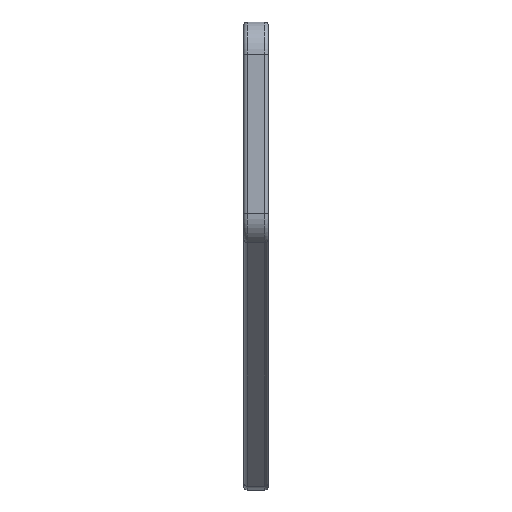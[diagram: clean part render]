
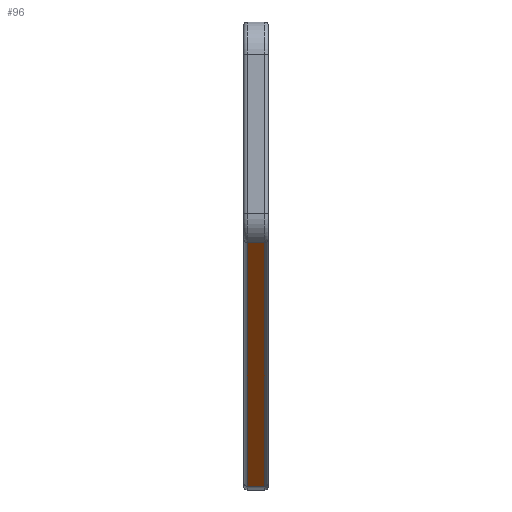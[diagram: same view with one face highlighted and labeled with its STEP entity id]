
A CAD part, left-side view. The second image highlights one B-rep face of the part: STEP entity #96.
In plain terms, the highlighted planar face has unit normal (-0.458, 0, -0.889).
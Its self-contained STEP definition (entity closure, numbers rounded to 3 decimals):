
#15 = VECTOR ( 'NONE', #2104, 1000. ) ;
#19 = CARTESIAN_POINT ( 'NONE',  ( -59.93, 2., 52.206 ) ) ;
#55 = VECTOR ( 'NONE', #1133, 1000. ) ;
#57 = FACE_OUTER_BOUND ( 'NONE', #1971, .T. ) ;
#95 = ORIENTED_EDGE ( 'NONE', *, *, #372, .T. ) ;
#96 = ADVANCED_FACE ( 'NONE', ( #57 ), #398, .F. ) ;
#100 = VECTOR ( 'NONE', #702, 1000. ) ;
#372 = EDGE_CURVE ( 'NONE', #1773, #1639, #381, .T. ) ;
#381 = LINE ( 'NONE', #860, #595 ) ;
#398 = PLANE ( 'NONE',  #964 ) ;
#402 = LINE ( 'NONE', #1125, #55 ) ;
#417 = CARTESIAN_POINT ( 'NONE',  ( -21.899, 2., 32.601 ) ) ;
#420 = CARTESIAN_POINT ( 'NONE',  ( -59.93, 0.3, 52.206 ) ) ;
#511 = CARTESIAN_POINT ( 'NONE',  ( -21.899, 0.3, 32.601 ) ) ;
#534 = ORIENTED_EDGE ( 'NONE', *, *, #1750, .F. ) ;
#595 = VECTOR ( 'NONE', #864, 1000. ) ;
#702 = DIRECTION ( 'NONE',  ( 0., -1., 0. ) ) ;
#740 = DIRECTION ( 'NONE',  ( 0.889, 0., -0.458 ) ) ;
#820 = CARTESIAN_POINT ( 'NONE',  ( -21.899, 1.7, 32.601 ) ) ;
#860 = CARTESIAN_POINT ( 'NONE',  ( -21.899, 1.7, 32.601 ) ) ;
#864 = DIRECTION ( 'NONE',  ( 0.889, 0., -0.458 ) ) ;
#875 = CARTESIAN_POINT ( 'NONE',  ( -59.93, 1.7, 52.206 ) ) ;
#888 = ORIENTED_EDGE ( 'NONE', *, *, #1976, .T. ) ;
#919 = EDGE_CURVE ( 'NONE', #995, #2024, #402, .T. ) ;
#964 = AXIS2_PLACEMENT_3D ( 'NONE', #417, #1766, #740 ) ;
#995 = VERTEX_POINT ( 'NONE', #511 ) ;
#1000 = LINE ( 'NONE', #19, #100 ) ;
#1125 = CARTESIAN_POINT ( 'NONE',  ( -59.93, 0.3, 52.206 ) ) ;
#1133 = DIRECTION ( 'NONE',  ( -0.889, 0., 0.458 ) ) ;
#1442 = LINE ( 'NONE', #1930, #15 ) ;
#1575 = ORIENTED_EDGE ( 'NONE', *, *, #919, .T. ) ;
#1639 = VERTEX_POINT ( 'NONE', #820 ) ;
#1750 = EDGE_CURVE ( 'NONE', #1773, #2024, #1000, .T. ) ;
#1766 = DIRECTION ( 'NONE',  ( 0.458, 0., 0.889 ) ) ;
#1773 = VERTEX_POINT ( 'NONE', #875 ) ;
#1930 = CARTESIAN_POINT ( 'NONE',  ( -21.899, 2., 32.601 ) ) ;
#1971 = EDGE_LOOP ( 'NONE', ( #888, #1575, #534, #95 ) ) ;
#1976 = EDGE_CURVE ( 'NONE', #1639, #995, #1442, .T. ) ;
#2024 = VERTEX_POINT ( 'NONE', #420 ) ;
#2104 = DIRECTION ( 'NONE',  ( 0., -1., 0. ) ) ;
